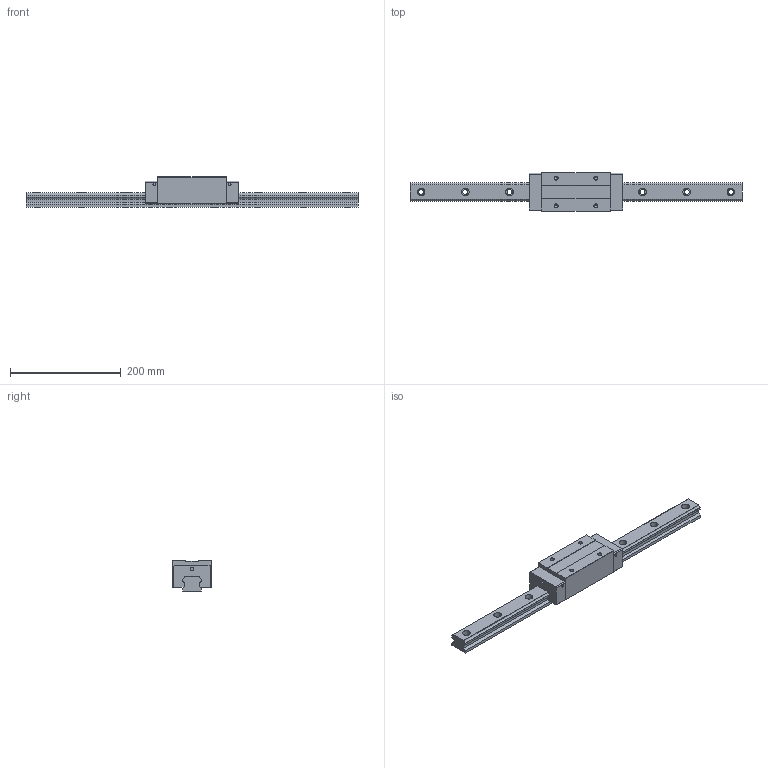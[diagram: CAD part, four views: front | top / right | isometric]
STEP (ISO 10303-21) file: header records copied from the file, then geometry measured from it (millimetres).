
FILE_DESCRIPTION (( 'STEP AP203' ), '1' );
FILE_NAME ('TRH35VE-DU.STEP', '2024-07-10T07:24:41', ( '' ), ( '' ), 'SwSTEP 2.0', 'SolidWorks 2022', '' );
FILE_SCHEMA (( 'CONFIG_CONTROL_DESIGN' ));
Length unit declared in the file: millimetre
Products named in the file (1): TRH35VE-DU
Bounding box: 600 x 70 x 55 mm (x, y, z)
Volume: 884582.2 mm3; surface area: 135666.4 mm2
Topology: 2 solids, 2 shells, 186 faces, 488 edges, 316 vertices
Faces by surface type: cylinder 88, plane 82, cone 16
Entity records: 5819 total; most frequent: DIRECTION 1038, CARTESIAN_POINT 983, ORIENTED_EDGE 960, EDGE_CURVE 480, AXIS2_PLACEMENT_3D 371, VERTEX_POINT 316, LINE 296, VECTOR 296
